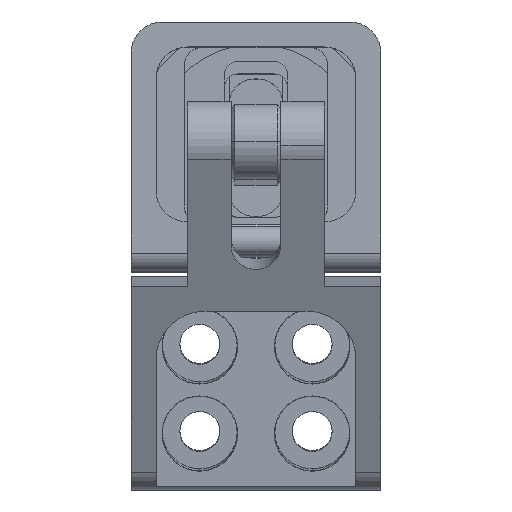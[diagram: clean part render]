
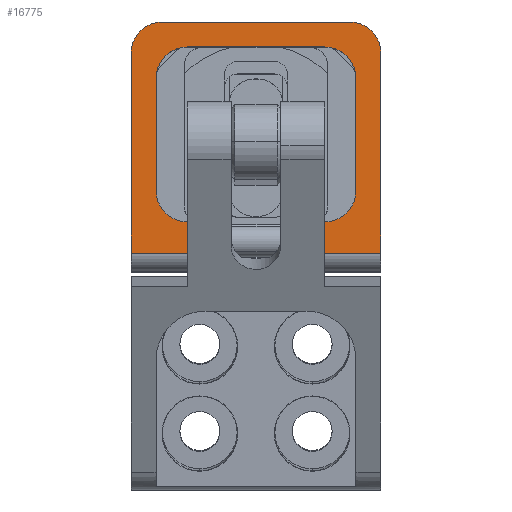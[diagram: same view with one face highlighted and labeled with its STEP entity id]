
A CAD part, top view. The second image highlights one B-rep face of the part: STEP entity #16775.
In plain terms, the highlighted planar face has unit normal (0, 0, 1).
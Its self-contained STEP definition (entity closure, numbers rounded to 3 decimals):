
#47 = VERTEX_POINT ( 'NONE', #24856 ) ;
#205 = CARTESIAN_POINT ( 'NONE',  ( -13.709, 3.497, 13.5 ) ) ;
#475 = VECTOR ( 'NONE', #18504, 1000. ) ;
#635 = CARTESIAN_POINT ( 'NONE',  ( 3.791, 0.997, 13.5 ) ) ;
#1031 = CARTESIAN_POINT ( 'NONE',  ( -11.709, -15.003, 13.5 ) ) ;
#1415 = EDGE_CURVE ( 'NONE', #11274, #20987, #23018, .T. ) ;
#1708 = ORIENTED_EDGE ( 'NONE', *, *, #21160, .F. ) ;
#1873 = EDGE_CURVE ( 'NONE', #13585, #11274, #3519, .T. ) ;
#1945 = CARTESIAN_POINT ( 'NONE',  ( -11.709, 1.497, 13.5 ) ) ;
#3094 = ORIENTED_EDGE ( 'NONE', *, *, #5823, .T. ) ;
#3102 = EDGE_CURVE ( 'NONE', #20581, #47, #12714, .T. ) ;
#3122 = EDGE_CURVE ( 'NONE', #5574, #3329, #23407, .T. ) ;
#3329 = VERTEX_POINT ( 'NONE', #25962 ) ;
#3332 = CIRCLE ( 'NONE', #20131, 2.5 ) ;
#3461 = ORIENTED_EDGE ( 'NONE', *, *, #15917, .T. ) ;
#3519 = LINE ( 'NONE', #15205, #19918 ) ;
#3539 = CARTESIAN_POINT ( 'NONE',  ( -11.709, -16.503, 13.5 ) ) ;
#3616 = ORIENTED_EDGE ( 'NONE', *, *, #1415, .T. ) ;
#3677 = VECTOR ( 'NONE', #7435, 1000. ) ;
#3723 = DIRECTION ( 'NONE',  ( 1., 0., 0. ) ) ;
#3742 = ORIENTED_EDGE ( 'NONE', *, *, #12175, .F. ) ;
#4323 = DIRECTION ( 'NONE',  ( 0., 1., 0. ) ) ;
#5134 = ORIENTED_EDGE ( 'NONE', *, *, #26916, .F. ) ;
#5141 = CARTESIAN_POINT ( 'NONE',  ( 1.791, 1.497, 13.5 ) ) ;
#5149 = CARTESIAN_POINT ( 'NONE',  ( -0.709, -1.003, 13.5 ) ) ;
#5574 = VERTEX_POINT ( 'NONE', #205 ) ;
#5582 = LINE ( 'NONE', #20325, #22013 ) ;
#5644 = EDGE_CURVE ( 'NONE', #26911, #25079, #25980, .T. ) ;
#5823 = EDGE_CURVE ( 'NONE', #20987, #18632, #18649, .T. ) ;
#5912 = CIRCLE ( 'NONE', #19809, 2.5 ) ;
#5966 = LINE ( 'NONE', #10917, #10996 ) ;
#5986 = AXIS2_PLACEMENT_3D ( 'NONE', #21835, #9004, #23986 ) ;
#6031 = ORIENTED_EDGE ( 'NONE', *, *, #3122, .T. ) ;
#6173 = LINE ( 'NONE', #7834, #475 ) ;
#6203 = DIRECTION ( 'NONE',  ( 1., 0., 0. ) ) ;
#6327 = CARTESIAN_POINT ( 'NONE',  ( -16.209, 3.497, 13.5 ) ) ;
#6380 = ORIENTED_EDGE ( 'NONE', *, *, #1873, .T. ) ;
#7359 = DIRECTION ( 'NONE',  ( 1., 0., 0. ) ) ;
#7435 = DIRECTION ( 'NONE',  ( 0., -1., 0. ) ) ;
#7834 = CARTESIAN_POINT ( 'NONE',  ( -14.209, 1.497, 13.5 ) ) ;
#7975 = CARTESIAN_POINT ( 'NONE',  ( -0.709, -15.003, 13.5 ) ) ;
#8015 = LINE ( 'NONE', #14476, #18726 ) ;
#8349 = AXIS2_PLACEMENT_3D ( 'NONE', #9248, #24210, #11396 ) ;
#8594 = DIRECTION ( 'NONE',  ( 0., 0., 1. ) ) ;
#8686 = DIRECTION ( 'NONE',  ( 1., 0., 0. ) ) ;
#9004 = DIRECTION ( 'NONE',  ( 0., 0., -1. ) ) ;
#9040 = AXIS2_PLACEMENT_3D ( 'NONE', #20153, #10781, #24357 ) ;
#9122 = ORIENTED_EDGE ( 'NONE', *, *, #25515, .T. ) ;
#9193 = DIRECTION ( 'NONE',  ( 0., 0., 1. ) ) ;
#9248 = CARTESIAN_POINT ( 'NONE',  ( -11.709, -10.003, 13.5 ) ) ;
#9544 = ORIENTED_EDGE ( 'NONE', *, *, #24142, .F. ) ;
#10724 = DIRECTION ( 'NONE',  ( 1., 0., 0. ) ) ;
#10741 = VECTOR ( 'NONE', #10724, 1000. ) ;
#10781 = DIRECTION ( 'NONE',  ( 0., 0., 1. ) ) ;
#10917 = CARTESIAN_POINT ( 'NONE',  ( -6.209, -15.003, 13.5 ) ) ;
#10923 = VECTOR ( 'NONE', #24762, 1000. ) ;
#10996 = VECTOR ( 'NONE', #8686, 1000. ) ;
#11014 = CARTESIAN_POINT ( 'NONE',  ( -0.709, -10.003, 13.5 ) ) ;
#11274 = VERTEX_POINT ( 'NONE', #1031 ) ;
#11396 = DIRECTION ( 'NONE',  ( 1., 0., 0. ) ) ;
#11693 = LINE ( 'NONE', #17164, #16722 ) ;
#11917 = AXIS2_PLACEMENT_3D ( 'NONE', #15603, #9193, #6203 ) ;
#12011 = EDGE_CURVE ( 'NONE', #3329, #13585, #8015, .T. ) ;
#12175 = EDGE_CURVE ( 'NONE', #27500, #16562, #11693, .T. ) ;
#12714 = CIRCLE ( 'NONE', #9040, 2.5 ) ;
#12839 = PLANE ( 'NONE',  #14425 ) ;
#12918 = CARTESIAN_POINT ( 'NONE',  ( -14.209, -1.003, 13.5 ) ) ;
#13085 = EDGE_CURVE ( 'NONE', #21868, #16562, #5912, .T. ) ;
#13099 = DIRECTION ( 'NONE',  ( 0., -1., 0. ) ) ;
#13154 = ORIENTED_EDGE ( 'NONE', *, *, #23339, .T. ) ;
#13215 = DIRECTION ( 'NONE',  ( 1., 0., 0. ) ) ;
#13243 = CARTESIAN_POINT ( 'NONE',  ( 1.791, -10.003, 13.5 ) ) ;
#13284 = ORIENTED_EDGE ( 'NONE', *, *, #13085, .T. ) ;
#13287 = EDGE_LOOP ( 'NONE', ( #3742, #27207, #1708, #22972, #5134, #6031, #14307, #6380, #3616, #3094, #9544, #23685, #9122, #13154, #3461, #13284 ) ) ;
#13585 = VERTEX_POINT ( 'NONE', #14697 ) ;
#14307 = ORIENTED_EDGE ( 'NONE', *, *, #12011, .T. ) ;
#14425 = AXIS2_PLACEMENT_3D ( 'NONE', #21416, #8594, #23591 ) ;
#14476 = CARTESIAN_POINT ( 'NONE',  ( -16.209, 3.497, 13.5 ) ) ;
#14697 = CARTESIAN_POINT ( 'NONE',  ( -16.209, -15.003, 13.5 ) ) ;
#14732 = CARTESIAN_POINT ( 'NONE',  ( 3.791, -15.003, 13.5 ) ) ;
#15103 = LINE ( 'NONE', #5141, #3677 ) ;
#15205 = CARTESIAN_POINT ( 'NONE',  ( -6.209, -15.003, 13.5 ) ) ;
#15603 = CARTESIAN_POINT ( 'NONE',  ( -13.709, 0.997, 13.5 ) ) ;
#15917 = EDGE_CURVE ( 'NONE', #25599, #21868, #15103, .T. ) ;
#16448 = VECTOR ( 'NONE', #13099, 1000. ) ;
#16562 = VERTEX_POINT ( 'NONE', #25045 ) ;
#16721 = CARTESIAN_POINT ( 'NONE',  ( -11.709, -12.503, 13.5 ) ) ;
#16722 = VECTOR ( 'NONE', #4323, 1000. ) ;
#16775 = ADVANCED_FACE ( 'NONE', ( #20008 ), #12839, .T. ) ;
#17164 = CARTESIAN_POINT ( 'NONE',  ( -0.709, -16.503, 13.5 ) ) ;
#17251 = CARTESIAN_POINT ( 'NONE',  ( -0.709, 1.497, 13.5 ) ) ;
#18504 = DIRECTION ( 'NONE',  ( 1., 0., 0. ) ) ;
#18632 = VERTEX_POINT ( 'NONE', #18648 ) ;
#18648 = CARTESIAN_POINT ( 'NONE',  ( -14.209, -10.003, 13.5 ) ) ;
#18649 = CIRCLE ( 'NONE', #8349, 2.5 ) ;
#18726 = VECTOR ( 'NONE', #25087, 1000. ) ;
#18735 = EDGE_CURVE ( 'NONE', #27500, #20217, #5966, .T. ) ;
#18870 = CARTESIAN_POINT ( 'NONE',  ( 1.791, -1.003, 13.5 ) ) ;
#19809 = AXIS2_PLACEMENT_3D ( 'NONE', #11014, #25975, #13215 ) ;
#19918 = VECTOR ( 'NONE', #3723, 1000. ) ;
#20008 = FACE_OUTER_BOUND ( 'NONE', #13287, .T. ) ;
#20131 = AXIS2_PLACEMENT_3D ( 'NONE', #5149, #20158, #7359 ) ;
#20153 = CARTESIAN_POINT ( 'NONE',  ( 1.291, 0.997, 13.5 ) ) ;
#20158 = DIRECTION ( 'NONE',  ( 0., 0., -1. ) ) ;
#20217 = VERTEX_POINT ( 'NONE', #14732 ) ;
#20325 = CARTESIAN_POINT ( 'NONE',  ( -14.209, 1.497, 13.5 ) ) ;
#20581 = VERTEX_POINT ( 'NONE', #635 ) ;
#20987 = VERTEX_POINT ( 'NONE', #16721 ) ;
#21160 = EDGE_CURVE ( 'NONE', #20581, #20217, #22118, .T. ) ;
#21416 = CARTESIAN_POINT ( 'NONE',  ( -6.209, -6.503, 13.5 ) ) ;
#21770 = VERTEX_POINT ( 'NONE', #17251 ) ;
#21835 = CARTESIAN_POINT ( 'NONE',  ( -11.709, -1.003, 13.5 ) ) ;
#21868 = VERTEX_POINT ( 'NONE', #13243 ) ;
#22013 = VECTOR ( 'NONE', #22462, 1000. ) ;
#22118 = LINE ( 'NONE', #23566, #16448 ) ;
#22121 = LINE ( 'NONE', #6327, #10741 ) ;
#22462 = DIRECTION ( 'NONE',  ( 0., -1., 0. ) ) ;
#22972 = ORIENTED_EDGE ( 'NONE', *, *, #3102, .T. ) ;
#23018 = LINE ( 'NONE', #3539, #10923 ) ;
#23339 = EDGE_CURVE ( 'NONE', #21770, #25599, #3332, .T. ) ;
#23407 = CIRCLE ( 'NONE', #11917, 2.5 ) ;
#23566 = CARTESIAN_POINT ( 'NONE',  ( 3.791, 3.497, 13.5 ) ) ;
#23591 = DIRECTION ( 'NONE',  ( 1., 0., 0. ) ) ;
#23685 = ORIENTED_EDGE ( 'NONE', *, *, #5644, .T. ) ;
#23986 = DIRECTION ( 'NONE',  ( 1., 0., 0. ) ) ;
#24142 = EDGE_CURVE ( 'NONE', #26911, #18632, #5582, .T. ) ;
#24210 = DIRECTION ( 'NONE',  ( 0., 0., -1. ) ) ;
#24357 = DIRECTION ( 'NONE',  ( 1., 0., 0. ) ) ;
#24762 = DIRECTION ( 'NONE',  ( 0., 1., 0. ) ) ;
#24856 = CARTESIAN_POINT ( 'NONE',  ( 1.291, 3.497, 13.5 ) ) ;
#25045 = CARTESIAN_POINT ( 'NONE',  ( -0.709, -12.503, 13.5 ) ) ;
#25079 = VERTEX_POINT ( 'NONE', #1945 ) ;
#25087 = DIRECTION ( 'NONE',  ( 0., -1., 0. ) ) ;
#25515 = EDGE_CURVE ( 'NONE', #25079, #21770, #6173, .T. ) ;
#25599 = VERTEX_POINT ( 'NONE', #18870 ) ;
#25962 = CARTESIAN_POINT ( 'NONE',  ( -16.209, 0.997, 13.5 ) ) ;
#25975 = DIRECTION ( 'NONE',  ( 0., 0., -1. ) ) ;
#25980 = CIRCLE ( 'NONE', #5986, 2.5 ) ;
#26911 = VERTEX_POINT ( 'NONE', #12918 ) ;
#26916 = EDGE_CURVE ( 'NONE', #5574, #47, #22121, .T. ) ;
#27207 = ORIENTED_EDGE ( 'NONE', *, *, #18735, .T. ) ;
#27500 = VERTEX_POINT ( 'NONE', #7975 ) ;
